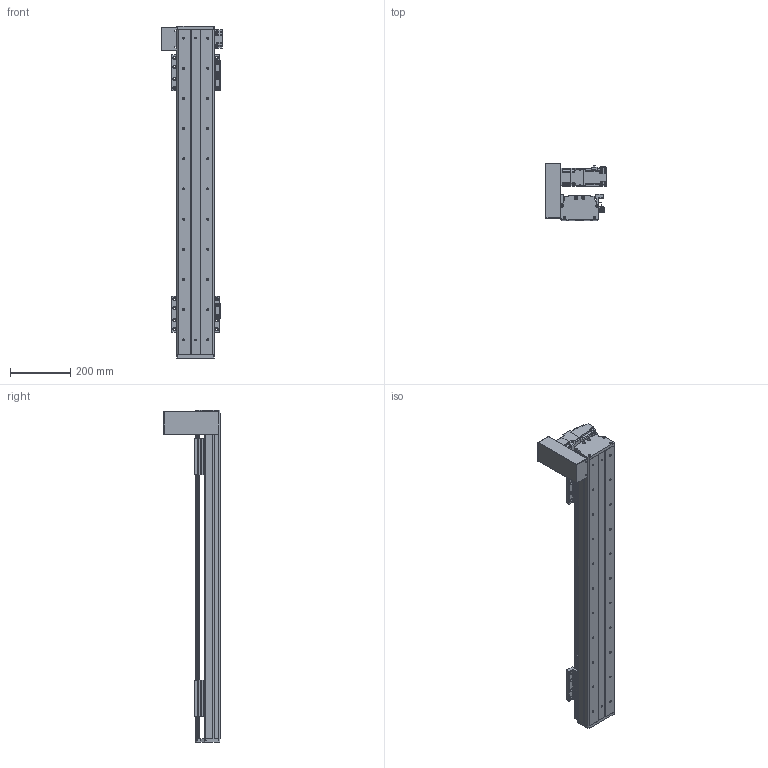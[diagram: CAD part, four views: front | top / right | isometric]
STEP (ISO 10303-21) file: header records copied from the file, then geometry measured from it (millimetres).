
FILE_DESCRIPTION(/* description */ (''),/* implementation_level */ '2;1');
FILE_NAME(/* name */ 'C:\Users\PC\Desktop\3D도면\STEP\DSB125-UL2G-W0800-R.stp',/* time_stamp */ '2018-06-19T00:41:12-07:00',/* author */ ('PC'),/* organization */ (''),/* preprocessor_version */ 'ST-DEVELOPER v16.5',/* originating_system */ 'Autodesk Inventor 2017',/* authorisation */ '');
FILE_SCHEMA (('AUTOMOTIVE_DESIGN { 1 0 10303 214 3 1 1 }'));
Length unit declared in the file: millimetre
Products named in the file (12): DSB125-L-300ST; DSR125-BASE(S-TYPE); DSR125-UP COVER-R01(170203); DSR125-REAR COVER-R01(170203); DSR125-REAR COVER-R01(170203)_1; hg-kr23_; ab0601-p0401200402; 13-BELT COVER; DSR126-SENSOR DOG; SENSOR BRACKET(EE-SX674A); pm-y65_step; DSR125-TABLE(MSA15X)
Assembly tree (16 placements, depth 2):
  DSB125-L-300ST
    DSR125-BASE(S-TYPE)
    DSR125-UP COVER-R01(170203)
    DSR125-REAR COVER-R01(170203)
    DSR125-REAR COVER-R01(170203)_1
    hg-kr23_
    ab0601-p0401200402
    13-BELT COVER
    DSR126-SENSOR DOG
    SENSOR BRACKET(EE-SX674A)  x3
    pm-y65_step  x3
    DSR125-TABLE(MSA15X)  x2
Bounding box: 202.1 x 187 x 1100 mm (x, y, z)
Volume: 4258173.1 mm3; surface area: 1228524.8 mm2
Topology: 17 solids, 22 shells, 1665 faces, 4511 edges, 2976 vertices
Faces by surface type: plane 908, cylinder 633, cone 112, sphere 8, torus 4
Full cylindrical faces by diameter (mm): 2.459 x20, 3.242 x16, 3.5 x6, 4 x1, 4.134 x16, 4.2 x4, 4.3 x1, 4.5 x50, 4.917 x20, 5 x27, 5.3 x1, 5.5 x4, 5.6 x8, 5.8 x4, 5.9 x8, 6 x4, 6.6 x22, 6.647 x22, 7.5 x32, 8.5 x8, 8.7 x1, 11 x22, 14 x1, 16 x2, 17 x1, 20 x1, 47 x1, 50 x3
Entity records: 35430 total; most frequent: CARTESIAN_POINT 6511, DIRECTION 6140, ORIENTED_EDGE 5486, EDGE_CURVE 2748, AXIS2_PLACEMENT_3D 2258, VERTEX_POINT 1957, EDGE_LOOP 1681, LINE 1624
